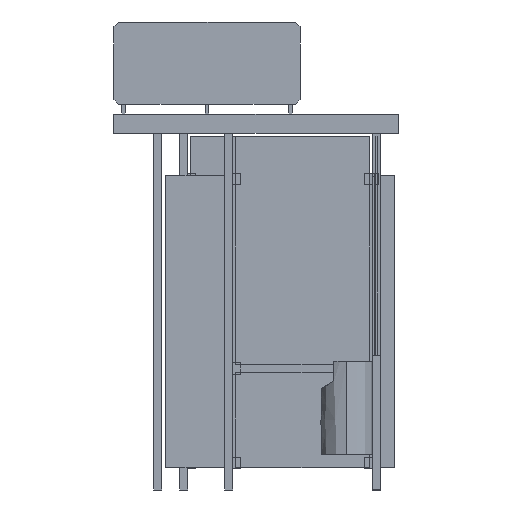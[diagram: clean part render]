
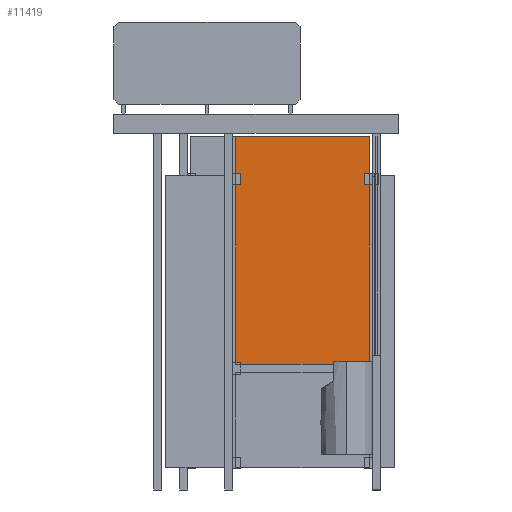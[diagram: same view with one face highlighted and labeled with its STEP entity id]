
A CAD part, front view. The second image highlights one B-rep face of the part: STEP entity #11419.
In plain terms, the highlighted planar face has unit normal (0, -1, 0).
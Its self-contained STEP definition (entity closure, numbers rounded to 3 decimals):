
#11419=ADVANCED_FACE('',(#15542),#62693,.T.);
#15542=FACE_OUTER_BOUND('',#19693,.T.);
#19693=EDGE_LOOP('',(#35474,#35475,#35476,#35477));
#35474=ORIENTED_EDGE('',*,*,#44470,.F.);
#35475=ORIENTED_EDGE('',*,*,#44469,.F.);
#35476=ORIENTED_EDGE('',*,*,#44468,.F.);
#35477=ORIENTED_EDGE('',*,*,#44464,.T.);
#44464=EDGE_CURVE('',#58511,#58512,#52729,.T.);
#44468=EDGE_CURVE('',#58511,#58515,#52733,.T.);
#44469=EDGE_CURVE('',#58515,#58516,#52734,.T.);
#44470=EDGE_CURVE('',#58516,#58512,#52735,.T.);
#52729=B_SPLINE_CURVE_WITH_KNOTS('',1,(#96514,#96515),.UNSPECIFIED.,.F.,
 .F.,(2,2),(0.,830.2),.UNSPECIFIED.);
#52733=B_SPLINE_CURVE_WITH_KNOTS('',1,(#96522,#96523),.UNSPECIFIED.,.F.,
 .F.,(2,2),(0.,2060.),.UNSPECIFIED.);
#52734=B_SPLINE_CURVE_WITH_KNOTS('',1,(#96524,#96525),.UNSPECIFIED.,.F.,
 .F.,(2,2),(0.,830.2),.UNSPECIFIED.);
#52735=B_SPLINE_CURVE_WITH_KNOTS('',1,(#96526,#96527),.UNSPECIFIED.,.F.,
 .F.,(2,2),(-2060.,0.),.UNSPECIFIED.);
#58511=VERTEX_POINT('',#96506);
#58512=VERTEX_POINT('',#96507);
#58515=VERTEX_POINT('',#96510);
#58516=VERTEX_POINT('',#96511);
#62693=PLANE('',#66782);
#66782=AXIS2_PLACEMENT_3D('',#96501,#70855,$);
#70855=DIRECTION('',(0.,-1.,0.));
#96501=CARTESIAN_POINT('',(-70.,-3630.001,781.28));
#96506=CARTESIAN_POINT('',(-900.2,-3630.001,781.28));
#96507=CARTESIAN_POINT('',(-70.,-3630.001,781.28));
#96510=CARTESIAN_POINT('',(-900.2,-3630.001,2200.));
#96511=CARTESIAN_POINT('',(-70.,-3630.001,2200.));
#96514=CARTESIAN_POINT('',(-900.2,-3630.001,781.28));
#96515=CARTESIAN_POINT('',(-70.,-3630.001,781.28));
#96522=CARTESIAN_POINT('',(-900.2,-3630.001,781.28));
#96523=CARTESIAN_POINT('',(-900.2,-3630.001,2200.));
#96524=CARTESIAN_POINT('',(-900.2,-3630.001,2200.));
#96525=CARTESIAN_POINT('',(-70.,-3630.001,2200.));
#96526=CARTESIAN_POINT('',(-70.,-3630.001,2200.));
#96527=CARTESIAN_POINT('',(-70.,-3630.001,781.28));
